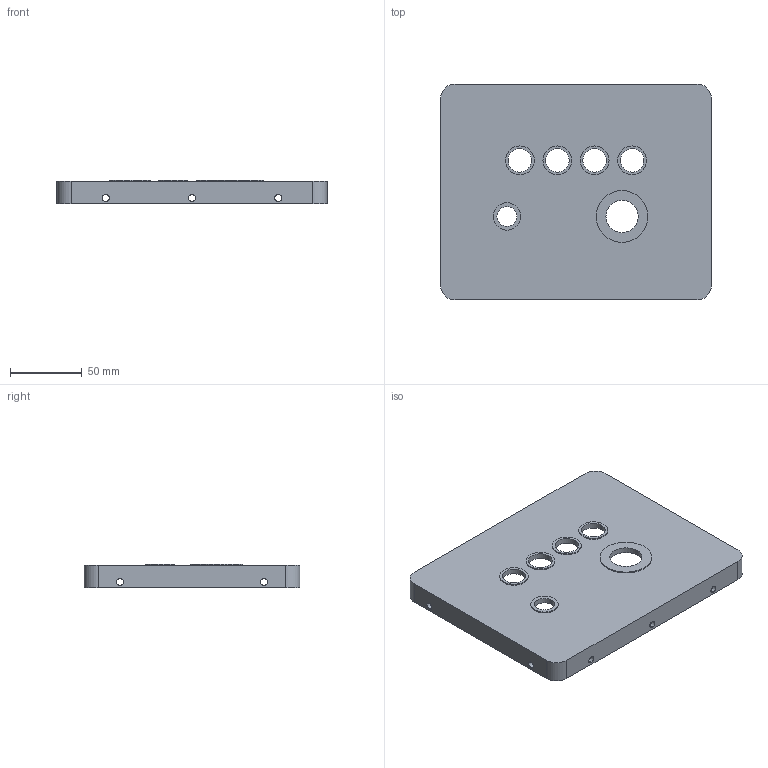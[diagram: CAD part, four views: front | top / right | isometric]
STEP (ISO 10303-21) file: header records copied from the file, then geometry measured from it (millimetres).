
FILE_DESCRIPTION(('CATIA V5 STEP Exchange','CAx-IF Rec.Pracs.--- Model Styling and Organization---1.5--- 2016-08-15','CAx-IF Rec.Pracs.---Supplemental Geometry---1.0---2011-11-01','CAx-IF Rec.Pracs.--- Composite Materials ---3.4---2017-06-13','CAx-IF Rec.Pracs.---Tessellated 3D Geometry---1.0---2015-12-17'),'2;1');
FILE_NAME('C:\Users\icemi\Desktop\RZS_Repository\RES\catia_macros\generated\RES_Enclosure_20260730_140208\RES_TopCover.stp','2026-07-30T06:02:41+00:00',('none'),('none'),'CATIA Version 5-6 Release 2022 SP6','CATIA V5 STEP AP242 v3','none');
FILE_SCHEMA(('AP242_MANAGED_MODEL_BASED_3D_ENGINEERING_MIM_LF {1 0 10303 442 1 1 4}'));
Length unit declared in the file: millimetre
Products named in the file (1): Part79
Bounding box: 188 x 150 x 16.3 mm (x, y, z)
Volume: 112813.5 mm3; surface area: 75641.2 mm2
Topology: 1 solids, 1 shells, 110 faces, 306 edges, 208 vertices
Faces by surface type: cylinder 62, plane 48
Entity records: 3316 total; most frequent: ORIENTED_EDGE 612, CARTESIAN_POINT 578, DIRECTION 432, EDGE_CURVE 306, VERTEX_POINT 208, AXIS2_PLACEMENT_3D 188, VECTOR 182, LINE 182
